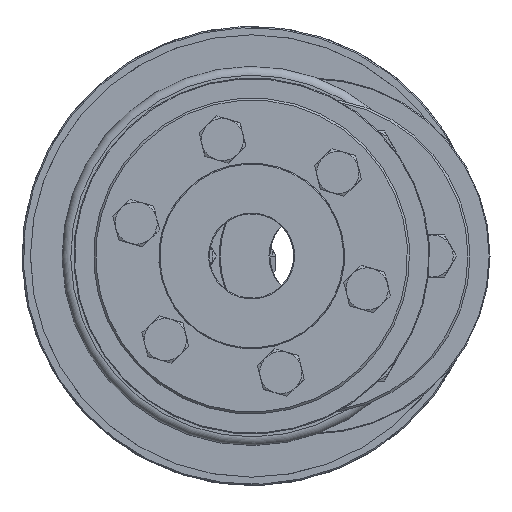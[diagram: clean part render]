
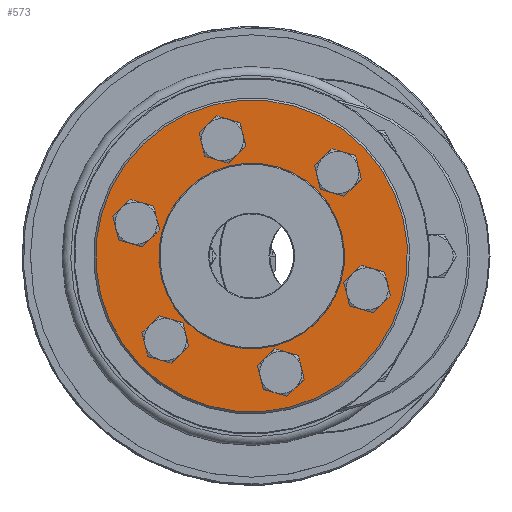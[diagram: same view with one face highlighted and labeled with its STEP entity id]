
A CAD part, left-side view. The second image highlights one B-rep face of the part: STEP entity #573.
In plain terms, the highlighted planar face has unit normal (-1, 0, 0).
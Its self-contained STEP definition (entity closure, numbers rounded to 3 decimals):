
#573 = ADVANCED_FACE( 'NONE', ( #924, #925, #926, #927, #928, #929, #930, #931 ), #932, .F. );
#924 = FACE_OUTER_BOUND( '', #1580, .T. );
#925 = FACE_BOUND( '', #1581, .T. );
#926 = FACE_BOUND( '', #1582, .T. );
#927 = FACE_BOUND( '', #1583, .T. );
#928 = FACE_BOUND( '', #1584, .T. );
#929 = FACE_BOUND( '', #1585, .T. );
#930 = FACE_BOUND( '', #1586, .T. );
#931 = FACE_BOUND( '', #1587, .T. );
#932 = PLANE( '', #1588 );
#1580 = EDGE_LOOP( '', ( #2340 ) );
#1581 = EDGE_LOOP( '', ( #2341 ) );
#1582 = EDGE_LOOP( '', ( #2342 ) );
#1583 = EDGE_LOOP( '', ( #2343 ) );
#1584 = EDGE_LOOP( '', ( #2344 ) );
#1585 = EDGE_LOOP( '', ( #2345 ) );
#1586 = EDGE_LOOP( '', ( #2346 ) );
#1587 = EDGE_LOOP( '', ( #2347 ) );
#1588 = AXIS2_PLACEMENT_3D( '', #2348, #2349, #2350 );
#2340 = ORIENTED_EDGE( '', *, *, #3550, .T. );
#2341 = ORIENTED_EDGE( '', *, *, #3551, .T. );
#2342 = ORIENTED_EDGE( '', *, *, #3552, .T. );
#2343 = ORIENTED_EDGE( '', *, *, #3553, .T. );
#2344 = ORIENTED_EDGE( '', *, *, #3554, .T. );
#2345 = ORIENTED_EDGE( '', *, *, #3555, .T. );
#2346 = ORIENTED_EDGE( '', *, *, #3556, .T. );
#2347 = ORIENTED_EDGE( '', *, *, #3557, .F. );
#2348 = CARTESIAN_POINT( '', ( 0., 22., 0. ) );
#2349 = DIRECTION( '', ( 1., 0., 0. ) );
#2350 = DIRECTION( '', ( 0., 1., 0. ) );
#3550 = EDGE_CURVE( 'NONE', #3942, #3942, #3943, .T. );
#3551 = EDGE_CURVE( 'NONE', #3944, #3944, #3945, .T. );
#3552 = EDGE_CURVE( 'NONE', #3946, #3946, #3947, .T. );
#3553 = EDGE_CURVE( 'NONE', #3948, #3948, #3949, .T. );
#3554 = EDGE_CURVE( 'NONE', #3950, #3950, #3951, .T. );
#3555 = EDGE_CURVE( 'NONE', #3952, #3952, #3953, .T. );
#3556 = EDGE_CURVE( 'NONE', #3954, #3954, #3955, .T. );
#3557 = EDGE_CURVE( 'NONE', #3956, #3956, #3957, .T. );
#3942 = VERTEX_POINT( '', #4540 );
#3943 = CIRCLE( '', #4541, 37. );
#3944 = VERTEX_POINT( '', #4542 );
#3945 = CIRCLE( '', #4543, 3.3 );
#3946 = VERTEX_POINT( '', #4544 );
#3947 = CIRCLE( '', #4545, 3.3 );
#3948 = VERTEX_POINT( '', #4546 );
#3949 = CIRCLE( '', #4547, 3.3 );
#3950 = VERTEX_POINT( '', #4548 );
#3951 = CIRCLE( '', #4549, 3.3 );
#3952 = VERTEX_POINT( '', #4550 );
#3953 = CIRCLE( '', #4551, 3.3 );
#3954 = VERTEX_POINT( '', #4552 );
#3955 = CIRCLE( '', #4553, 3.3 );
#3956 = VERTEX_POINT( '', #4554 );
#3957 = CIRCLE( '', #4555, 22. );
#4540 = CARTESIAN_POINT( '', ( 0., 0., -37. ) );
#4541 = AXIS2_PLACEMENT_3D( '', #5531, #5532, #5533 );
#4542 = CARTESIAN_POINT( '', ( 0., 14.25, 21.382 ) );
#4543 = AXIS2_PLACEMENT_3D( '', #5534, #5535, #5536 );
#4544 = CARTESIAN_POINT( '', ( 0., -14.25, 21.382 ) );
#4545 = AXIS2_PLACEMENT_3D( '', #5537, #5538, #5539 );
#4546 = CARTESIAN_POINT( '', ( 0., -28.5, -3.3 ) );
#4547 = AXIS2_PLACEMENT_3D( '', #5540, #5541, #5542 );
#4548 = CARTESIAN_POINT( '', ( 0., -14.25, -27.982 ) );
#4549 = AXIS2_PLACEMENT_3D( '', #5543, #5544, #5545 );
#4550 = CARTESIAN_POINT( '', ( 0., 14.25, -27.982 ) );
#4551 = AXIS2_PLACEMENT_3D( '', #5546, #5547, #5548 );
#4552 = CARTESIAN_POINT( '', ( 0., 28.5, -3.3 ) );
#4553 = AXIS2_PLACEMENT_3D( '', #5549, #5550, #5551 );
#4554 = CARTESIAN_POINT( '', ( 0., 0., 22. ) );
#4555 = AXIS2_PLACEMENT_3D( '', #5552, #5553, #5554 );
#5531 = CARTESIAN_POINT( '', ( 0., 0., 0. ) );
#5532 = DIRECTION( '', ( -1., 0., 0. ) );
#5533 = DIRECTION( '', ( 0., 0., -1. ) );
#5534 = CARTESIAN_POINT( '', ( 0., 14.25, 24.682 ) );
#5535 = DIRECTION( '', ( 1., 0., 0. ) );
#5536 = DIRECTION( '', ( 0., 0., -1. ) );
#5537 = CARTESIAN_POINT( '', ( 0., -14.25, 24.682 ) );
#5538 = DIRECTION( '', ( 1., 0., 0. ) );
#5539 = DIRECTION( '', ( 0., 0., -1. ) );
#5540 = CARTESIAN_POINT( '', ( 0., -28.5, 0. ) );
#5541 = DIRECTION( '', ( 1., 0., 0. ) );
#5542 = DIRECTION( '', ( 0., 0., -1. ) );
#5543 = CARTESIAN_POINT( '', ( 0., -14.25, -24.682 ) );
#5544 = DIRECTION( '', ( 1., 0., 0. ) );
#5545 = DIRECTION( '', ( 0., 0., -1. ) );
#5546 = CARTESIAN_POINT( '', ( 0., 14.25, -24.682 ) );
#5547 = DIRECTION( '', ( 1., 0., 0. ) );
#5548 = DIRECTION( '', ( 0., 0., -1. ) );
#5549 = CARTESIAN_POINT( '', ( 0., 28.5, 0. ) );
#5550 = DIRECTION( '', ( 1., 0., 0. ) );
#5551 = DIRECTION( '', ( 0., 0., -1. ) );
#5552 = CARTESIAN_POINT( '', ( 0., 0., 0. ) );
#5553 = DIRECTION( '', ( -1., 0., 0. ) );
#5554 = DIRECTION( '', ( 0., 0., 1. ) );
